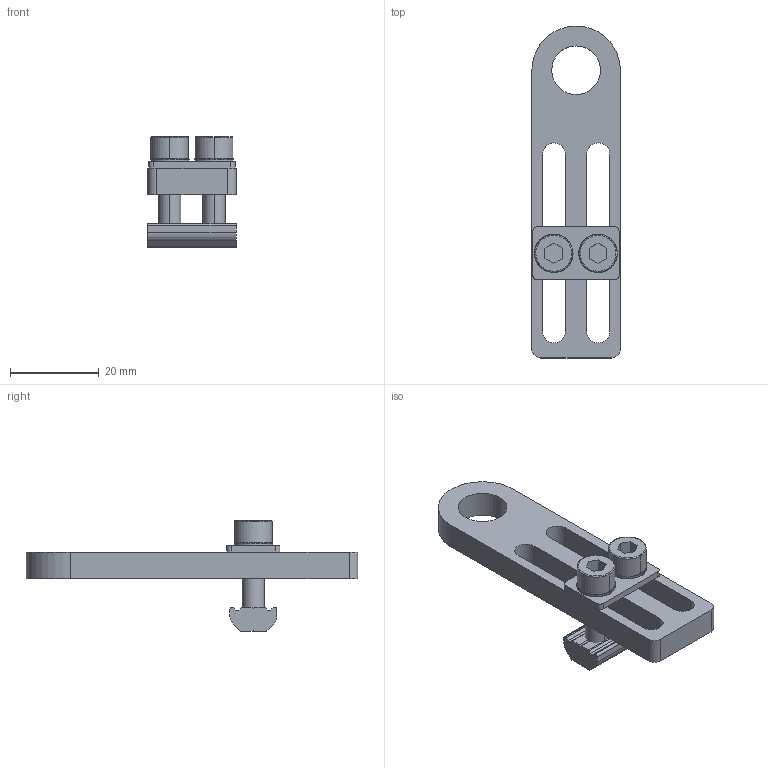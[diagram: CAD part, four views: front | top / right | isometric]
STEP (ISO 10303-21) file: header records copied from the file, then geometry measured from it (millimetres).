
FILE_DESCRIPTION (( 'STEP AP214' ), '1' );
FILE_NAME ('SMBE5-M1240.STEP', '2019-11-06T01:25:46', ( '微软用户' ), ( '微软中国' ), 'SwSTEP 2.0', 'SolidWorks 2016', '' );
FILE_SCHEMA (( 'AUTOMOTIVE_DESIGN' ));
Length unit declared in the file: millimetre
Products named in the file (1): SMBE5-M1240
Bounding box: 20.05 x 75 x 25 mm (x, y, z)
Volume: 7821.6 mm3; surface area: 6978.3 mm2
Topology: 7 solids, 7 shells, 511 faces, 1482 edges, 981 vertices
Faces by surface type: plane 447, cylinder 56, cone 4, bspline 4
Entity records: 23016 total; most frequent: CARTESIAN_POINT 3437, ORIENTED_EDGE 2964, DIRECTION 2937, EDGE_CURVE 1482, AXIS2_PLACEMENT_3D 987, VERTEX_POINT 981, LINE 963, VECTOR 963
